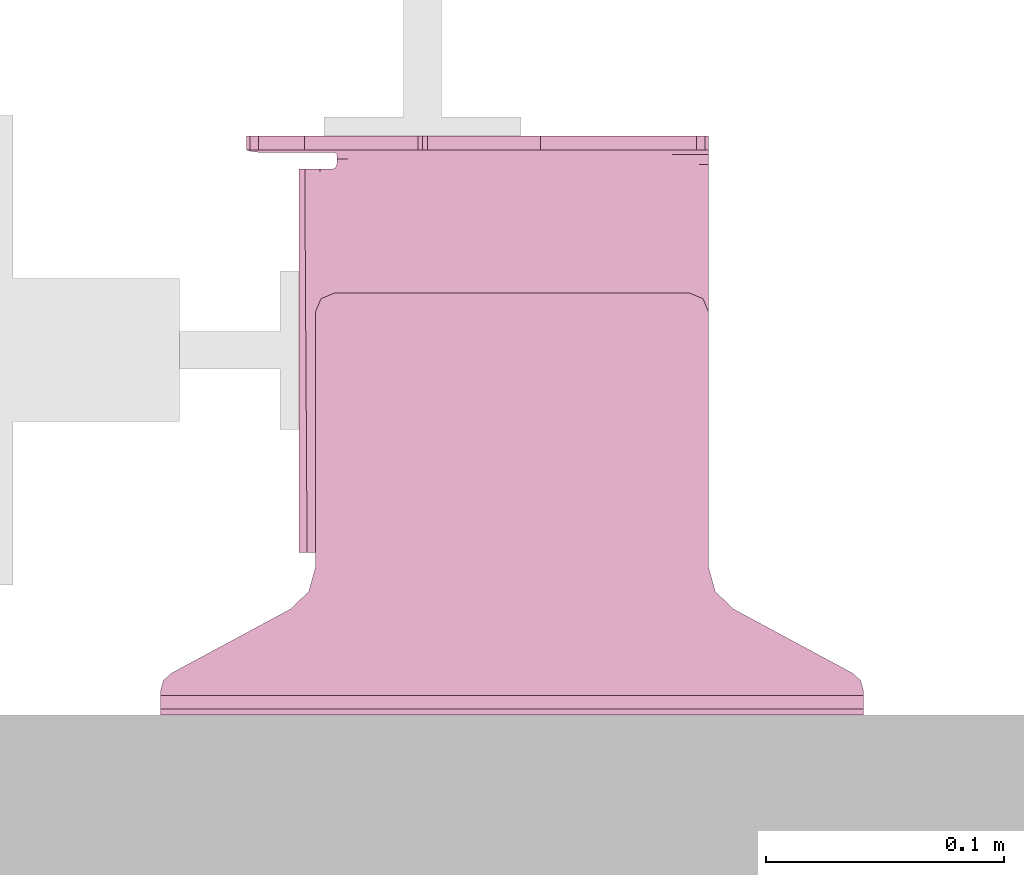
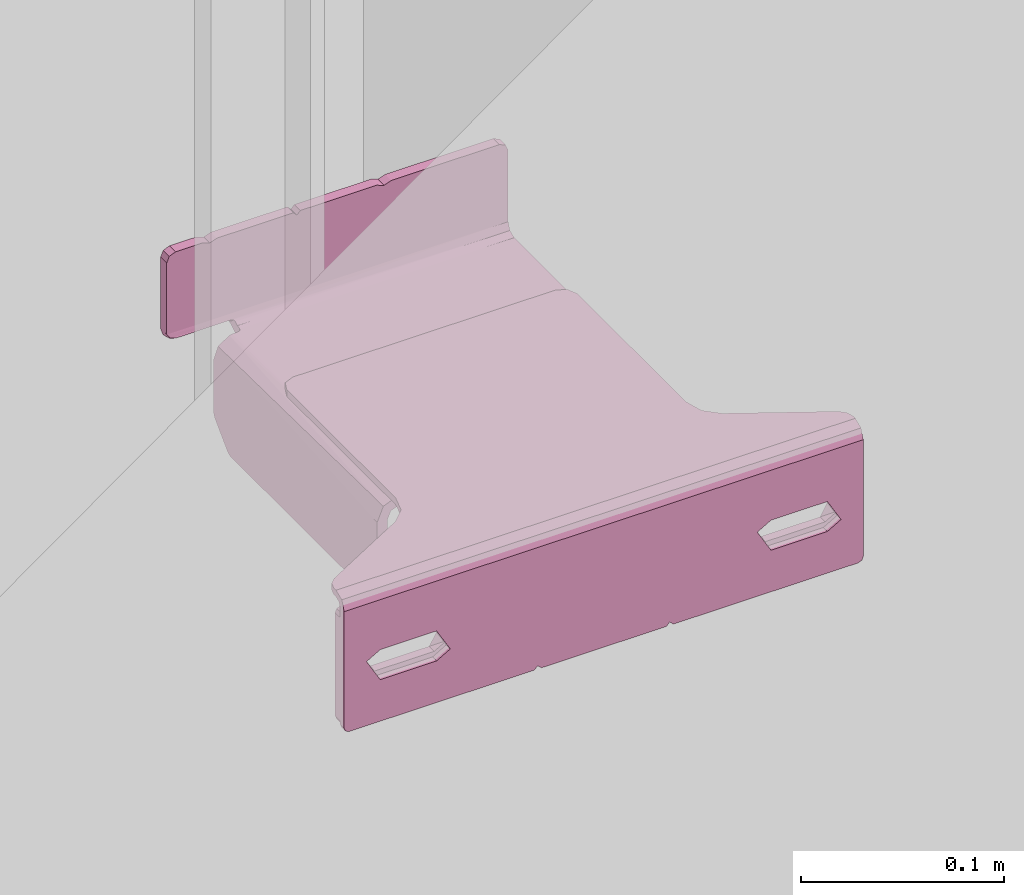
# One storey, part 11 of 14: 1 transport element.
"""IFC2X3 building model written with IfcOpenShell, lengths in millimetres."""

from ifc_helpers import new_model, entity, si_unit, converted_unit, derived_unit, direction, frame, origin, place, context, subcontext, project, spatial, faceted_brep, source, transform, mapped, material, type_object, type_shapes, element, save


model = new_model("IFC2X3")

# Units and contexts
model_context = context("Model", 3, precision=0.01, world=origin(), true_north=direction((6.12303176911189e-17, 1.0)))
body_context = subcontext(model_context, "Body", "Model", "MODEL_VIEW")
ifc_project = project(units=[si_unit("LENGTHUNIT", "METRE", prefix="MILLI"), si_unit("AREAUNIT", "SQUARE_METRE"), si_unit("VOLUMEUNIT", "CUBIC_METRE"), converted_unit("PLANEANGLEUNIT", "DEGREE", entity("IfcRatioMeasure", 0.0174532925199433), si_unit("PLANEANGLEUNIT", "RADIAN"), dimensions=[0, 0, 0, 0, 0, 0, 0]), si_unit("MASSUNIT", "GRAM", prefix="KILO"), derived_unit("MASSDENSITYUNIT", [(si_unit("MASSUNIT", "GRAM", prefix="KILO"), 1), (si_unit("LENGTHUNIT", "METRE"), -3)]), si_unit("TIMEUNIT", "SECOND"), si_unit("FREQUENCYUNIT", "HERTZ"), si_unit("THERMODYNAMICTEMPERATUREUNIT", "DEGREE_CELSIUS"), derived_unit("THERMALTRANSMITTANCEUNIT", [(si_unit("MASSUNIT", "GRAM", prefix="KILO"), 1), (si_unit("THERMODYNAMICTEMPERATUREUNIT", "KELVIN"), -1), (si_unit("TIMEUNIT", "SECOND"), -3)]), derived_unit("VOLUMETRICFLOWRATEUNIT", [(si_unit("LENGTHUNIT", "METRE"), 3), (si_unit("TIMEUNIT", "SECOND"), -1)]), si_unit("ELECTRICCURRENTUNIT", "AMPERE"), si_unit("ELECTRICVOLTAGEUNIT", "VOLT"), si_unit("POWERUNIT", "WATT"), si_unit("FORCEUNIT", "NEWTON", prefix="KILO"), si_unit("ILLUMINANCEUNIT", "LUX"), si_unit("LUMINOUSFLUXUNIT", "LUMEN"), si_unit("LUMINOUSINTENSITYUNIT", "CANDELA"), derived_unit("USERDEFINED", [(si_unit("MASSUNIT", "GRAM", prefix="KILO"), -1), (si_unit("LENGTHUNIT", "METRE"), -2), (si_unit("TIMEUNIT", "SECOND"), 3), (si_unit("LUMINOUSFLUXUNIT", "LUMEN"), 1)]), derived_unit("LINEARVELOCITYUNIT", [(si_unit("LENGTHUNIT", "METRE"), 1), (si_unit("TIMEUNIT", "SECOND"), -1)]), si_unit("PRESSUREUNIT", "PASCAL"), derived_unit("USERDEFINED", [(si_unit("LENGTHUNIT", "METRE"), -2), (si_unit("MASSUNIT", "GRAM", prefix="KILO"), 1), (si_unit("TIMEUNIT", "SECOND"), -2)])], contexts=[model_context])

# Site, building, storey, space
site_placement = place(None, frame((-151.875543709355, 2715.0, 0.0)))
site = spatial("IfcSite", under=ifc_project, at=site_placement, Name="Surface", CompositionType="ELEMENT")
building_placement = place(site_placement, origin())
building = spatial("IfcBuilding", under=site, at=building_placement, CompositionType="ELEMENT")
storey_placement = place(building_placement, frame((0.0, 0.0, 3875.0)))
storey = spatial("IfcBuildingStorey", under=building, at=storey_placement, Name="uus 2 korrus", CompositionType="ELEMENT", Elevation=3875.00000000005)
space_placement = place(storey_placement, origin())
space = spatial("IfcSpace", under=storey, at=space_placement, Name="226a", CompositionType="ELEMENT", InteriorOrExteriorSpace="INTERNAL")

# Transport element
ifc_material = material(Name="Generic")
transport_element_type = type_object("IfcTransportElementType", Name="KONE_Combination_Bracket_KM51029396V002_L184-394_LH", material=ifc_material)
shared_shape = source(origin(), body_context, "Body", "Brep", [
    faceted_brep([(194.368600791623, 50.557014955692, -243.0), (197.904134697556, 49.0925488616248, -243.0), (199.368600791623, 45.5570149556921, -243.0), (199.368600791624, 2.55701495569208, -243.0), (5.401799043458, 2.55701495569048, -243.0), (5.37690725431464, 2.84414737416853, -243.0), (5.36860079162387, 3.13223699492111, -243.0), (5.36860079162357, 45.5570149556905, -243.0), (6.83306688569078, 49.0925488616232, -243.0), (10.3686007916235, 50.5570149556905, -243.0), (25.7152888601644, 50.5570149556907, -243.0), (29.8686007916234, 49.0570149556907, -243.0), (34.0219127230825, 50.5570149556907, -243.0), (77.3686007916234, 50.5570149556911, -243.0), (79.3686007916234, 48.5570149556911, -243.0), (81.3686007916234, 50.5570149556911, -243.0), (124.715288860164, 50.5570149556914, -243.0), (128.868600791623, 49.0570149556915, -243.0), (133.021912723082, 50.5570149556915, -243.0), (5.40179904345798, 2.55701495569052, -240.954929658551), (5.40179904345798, 2.55701495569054, -238.909859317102), (5.40179904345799, 2.55701495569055, -237.0), (5.37690725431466, 2.84414737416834, -237.0), (5.36860079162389, 3.13223699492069, -237.0), (39.3686007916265, -9.44298504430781, -68.0), (39.3686007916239, -9.44298504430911, -229.0), (41.3686007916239, -9.4429850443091, -229.0), (42.7828143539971, -9.44298504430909, -229.585786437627), (43.3686007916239, -9.4429850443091, -231.0), (199.368600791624, -9.44298504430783, -231.0), (199.368600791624, -9.44298504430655, -73.0), (197.904134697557, -9.44298504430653, -69.4644660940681), (194.368600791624, -9.44298504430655, -68.0), (33.3686007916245, -61.9785189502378, -81.535533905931), (33.3686007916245, -63.0623827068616, -83.1576506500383), (33.3686007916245, -63.442985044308, -85.0710678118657), (33.3686007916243, -63.442985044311, -211.928932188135), (33.3686007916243, -63.0623827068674, -213.84234934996), (33.3686007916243, -61.9785189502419, -215.464466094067), (33.3686007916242, -49.9074511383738, -227.535533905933), (33.3686007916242, -48.2853343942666, -228.619397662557), (33.3686007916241, -46.3719172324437, -229.0), (33.3686007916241, -37.0182070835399, -229.0), (33.3686007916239, -15.4429850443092, -229.0), (33.3686007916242, -15.4429850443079, -68.0), (33.3686007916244, -46.3719172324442, -68.0), (33.3686007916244, -48.2853343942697, -68.3806023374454), (33.3686007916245, -49.9074511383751, -69.4644660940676), (41.3686007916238, -3.8111214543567, -241.170881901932), (199.368600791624, -5.92826641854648, -239.485281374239), (6.40766390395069, -1.13745775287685, -242.417130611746), (10.3686007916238, -3.81112145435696, -241.170881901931), (8.29850844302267, -2.41379275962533, -241.822205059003), (43.3686007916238, -8.59019143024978, -235.442948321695), (43.3686007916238, -6.15302007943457, -239.254410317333), (43.1522088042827, -5.4728628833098, -239.865440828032), (42.912766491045, -4.72025455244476, -240.541559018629), (42.1406836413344, -4.26568800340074, -240.85622046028), (34.6248743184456, -11.7691506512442, -229.0), (35.1259601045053, -11.2003443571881, -68.0), (37.867620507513, -9.63376322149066, -229.0), (38.612072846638, -9.49087067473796, -229.0), (5.36860079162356, 45.5570149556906, -237.0), (6.8330668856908, 49.0925488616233, -237.0), (10.3686007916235, 50.5570149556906, -237.0), (199.368600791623, 45.5570149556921, -237.0), (199.368600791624, 2.55701495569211, -237.0), (199.368600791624, -1.68562573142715, -235.24264068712), (199.368600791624, -3.44298504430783, -231.0), (199.368600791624, -3.44298504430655, -73.0), (194.368600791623, 50.5570149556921, -237.0), (197.904134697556, 49.0925488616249, -237.0), (124.715288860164, 50.5570149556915, -237.0), (81.3686007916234, 50.5570149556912, -237.0), (133.021912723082, 50.5570149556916, -237.0), (77.3686007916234, 50.5570149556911, -237.0), (34.0219127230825, 50.5570149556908, -237.0), (25.7152888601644, 50.5570149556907, -237.0), (128.868600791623, 49.0570149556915, -237.0), (79.3686007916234, 48.5570149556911, -237.0), (29.8686007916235, 49.0570149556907, -237.0), (39.3686007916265, -6.44298504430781, -68.0), (194.368600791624, -3.44298504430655, -68.0), (39.3686007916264, -3.44298504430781, -68.0), (30.883319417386, -6.9577036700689, -68.0), (27.3686007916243, -15.4429850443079, -68.0), (27.3686007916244, -46.3719172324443, -68.0), (197.904134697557, -3.44298504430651, -69.4644660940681), (27.3686007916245, -46.3719172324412, -229.0), (27.3686007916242, -48.2853343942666, -228.619397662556), (27.3686007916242, -49.9074511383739, -227.535533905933), (27.3686007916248, -61.9785189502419, -215.464466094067), (27.3686007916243, -63.4429850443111, -211.928932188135), (27.3686007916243, -63.0623827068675, -213.84234934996), (27.368600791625, -63.442985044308, -85.0710678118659), (27.3686007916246, -63.0623827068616, -83.1576506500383), (27.3686007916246, -61.9785189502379, -81.5355339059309), (27.3686007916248, -49.9074511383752, -69.4644660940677), (27.3686007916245, -48.2853343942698, -68.3806023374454), (42.782814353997, -3.44298504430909, -229.585786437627), (41.3686007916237, -3.44298504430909, -229.0), (39.3686007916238, -3.44298504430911, -229.0), (43.3686007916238, -3.44298504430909, -231.0), (27.3686007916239, -15.4429850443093, -229.0), (27.3686007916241, -37.01820708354, -229.0), (41.3686007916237, -0.62705324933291, -236.085440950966), (6.19050436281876, 1.51354044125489, -236.776221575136), (7.26141212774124, 0.0967058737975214, -236.472374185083), (10.3686007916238, -0.627053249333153, -236.085440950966), (43.3686007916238, -3.01658823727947, -233.221474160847), (43.3686007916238, -1.79800256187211, -235.127205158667), (42.6856009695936, -0.938930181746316, -235.876306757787), (29.8811478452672, -8.09531625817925, -229.0), (36.366640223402, -3.82454139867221, -229.0), (37.855544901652, -3.53875630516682, -229.0), (30.3686007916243, -37.01820708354, -229.0), (30.368600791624, -15.4429850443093, -229.0), (37.1171303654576, -6.72915231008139, -229.0), (10.3686007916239, -2.7497653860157, -239.475734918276), (41.3686007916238, -3.03001105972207, -239.923329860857), (41.3686007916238, -1.68840931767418, -237.780587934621), (10.3686007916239, -1.68840931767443, -237.780587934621), (43.3686007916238, -2.86998689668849, -236.143113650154), (43.3686007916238, -4.70134757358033, -237.878675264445), (42.9506306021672, -3.05278886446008, -238.263482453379), (42.3310011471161, -2.020127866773, -237.825190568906), (42.96220815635, -2.04723230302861, -236.93741785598), (42.2377280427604, -2.95461684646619, -239.328855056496), (8.43695178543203, -1.96418230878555, -239.076862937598), (6.5068444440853, 0.111398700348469, -238.170030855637), (6.58437608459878, -0.560185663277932, -239.802254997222), (8.3377752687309, -1.05787869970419, -237.540730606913)], [[[0, 1, 2, 3, 4, 5, 6, 7, 8, 9, 10, 11, 12, 13, 14, 15, 16, 17, 18]], [[19, 20, 21, 22, 5, 4]], [[22, 23, 6, 5]], [[24, 25, 26, 27, 28, 29, 30, 31, 32]], [[33, 34, 35, 36, 37, 38, 39, 40, 41, 42, 43, 44, 45, 46, 47]], [[3, 48, 4]], [[48, 3, 49]], [[48, 50, 4]], [[48, 51, 52, 50]], [[49, 29, 53]], [[53, 29, 28]], [[49, 53, 54]], [[49, 54, 55, 56]], [[49, 56, 57, 48]], [[58, 59, 44]], [[44, 43, 58]], [[58, 60, 59]], [[61, 24, 60]], [[59, 60, 24]], [[24, 61, 25]], [[7, 62, 63, 8]], [[63, 64, 9, 8]], [[6, 23, 62, 7]], [[65, 66, 67, 68, 69, 30, 29, 49, 3, 2]], [[0, 70, 71, 1]], [[71, 65, 2, 1]], [[72, 16, 15, 73]], [[0, 18, 74, 70]], [[75, 13, 12, 76]], [[10, 9, 64, 77]], [[17, 78, 74, 18]], [[16, 72, 78, 17]], [[15, 14, 79, 73]], [[75, 79, 14, 13]], [[11, 80, 76, 12]], [[10, 77, 80, 11]], [[81, 32, 82]], [[32, 81, 24]], [[81, 82, 83]], [[59, 24, 81]], [[83, 84, 81]], [[81, 84, 59]], [[84, 85, 59]], [[59, 85, 44]], [[85, 45, 44]], [[45, 85, 86]], [[30, 69, 87, 31]], [[87, 82, 32, 31]], [[88, 41, 40, 89]], [[40, 39, 90, 89]], [[39, 38, 91, 90]], [[36, 92, 93, 37]], [[93, 91, 38, 37]], [[94, 92, 36, 35]], [[94, 35, 34, 95]], [[34, 33, 96, 95]], [[97, 96, 33, 47]], [[45, 86, 98, 46]], [[98, 97, 47, 46]], [[66, 65, 71, 70, 74, 78, 72, 73, 79, 75, 76, 80, 77, 64, 63, 62, 23, 22, 21]], [[99, 100, 101, 83, 82, 87, 69, 68, 102]], [[94, 95, 96, 97, 98, 86, 85, 103, 104, 88, 89, 90, 91, 93, 92]], [[21, 105, 66]], [[67, 66, 105]], [[105, 21, 106, 107]], [[108, 105, 107]], [[109, 68, 67]], [[102, 68, 109]], [[110, 109, 67]], [[67, 111, 110]], [[105, 111, 67]], [[85, 84, 112]], [[112, 103, 85]], [[84, 113, 112]], [[113, 83, 114]], [[83, 113, 84]], [[101, 114, 83]], [[115, 88, 104]], [[88, 115, 41]], [[42, 41, 115]], [[115, 104, 103]], [[116, 115, 103]], [[116, 43, 115]], [[42, 115, 43]], [[43, 116, 58]], [[112, 116, 103]], [[112, 58, 116]], [[58, 112, 117]], [[117, 112, 113]], [[114, 117, 113]], [[101, 117, 114]], [[25, 117, 101]], [[25, 101, 100]], [[100, 26, 25]], [[61, 117, 25]], [[60, 117, 61]], [[117, 60, 58]], [[118, 51, 48, 119, 120, 105, 108, 121]], [[54, 53, 28, 102, 109, 110, 122, 123]], [[56, 55, 124]], [[120, 125, 105]], [[126, 122, 110]], [[124, 123, 122]], [[55, 123, 124]], [[125, 124, 126]], [[127, 57, 56]], [[124, 125, 127]], [[127, 119, 57]], [[105, 125, 111]], [[119, 127, 120]], [[127, 125, 120]], [[124, 127, 56]], [[119, 48, 57]], [[111, 125, 126]], [[111, 126, 110]], [[126, 124, 122]], [[55, 54, 123]], [[99, 27, 26, 100]], [[102, 28, 27, 99]], [[128, 118, 121]], [[20, 129, 106]], [[52, 118, 128]], [[52, 130, 50]], [[128, 121, 131]], [[131, 130, 128]], [[19, 130, 20]], [[129, 131, 107]], [[50, 19, 4]], [[50, 130, 19]], [[20, 106, 21]], [[107, 131, 108]], [[52, 128, 130]], [[129, 107, 106]], [[129, 20, 130]], [[52, 51, 118]], [[131, 129, 130]], [[108, 131, 121]]]),
    faceted_brep([(199.368600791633, 0.557014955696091, -169.0), (197.025455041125, 0.557014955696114, -174.656854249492), (191.368600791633, 0.557014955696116, -177.0), (42.3686007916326, 0.557014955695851, -177.0), (36.7117465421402, 0.55701495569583, -174.656854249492), (34.3686007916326, 0.557014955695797, -169.0), (34.3686007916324, 0.557014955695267, -61.945881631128), (32.9537618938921, 0.557014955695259, -56.81801571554), (31.5389229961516, 0.557014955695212, -51.690149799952), (27.3345887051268, 0.557014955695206, -47.6688098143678), (23.8505972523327, 0.557014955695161, -44.3364596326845), (-26.4241977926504, 0.557014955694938, -17.2654161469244), (-29.4995280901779, 0.557014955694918, -14.3239400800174), (-30.6313992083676, 0.557014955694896, -10.2216473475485), (-30.6313992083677, 0.557014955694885, -8.0), (264.368600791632, 0.557014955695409, -8.0), (264.368600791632, 0.55701495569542, -10.221647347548), (263.23672967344, 0.557014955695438, -14.3239400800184), (260.161399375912, 0.557014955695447, -17.2654161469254), (209.886604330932, 0.557014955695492, -44.3364596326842), (206.042441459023, 0.55701495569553, -48.0133047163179), (202.198278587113, 0.557014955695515, -51.6901497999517), (200.6508790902, 0.557014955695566, -57.2984612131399), (199.368600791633, 0.55701495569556, -61.9458816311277), (-30.6313992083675, -77.4429850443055, 0.0), (-29.7527195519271, -79.5643053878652, 0.0), (-27.6313992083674, -80.4429850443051, 0.0), (-10.1313992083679, -55.4429850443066, 0.0), (-17.9256278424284, -41.9429850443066, 0.0), (-30.6313992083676, -7.44298504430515, 0.0), (21.8686007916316, -55.4429850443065, 0.0), (77.3686007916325, -80.442985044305, 0.0), (29.6628294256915, -50.9429850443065, 0.0), (79.3686007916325, -78.4429850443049, 0.0), (21.8686007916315, -37.4429850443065, 0.0), (204.074372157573, -41.9429850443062, 0.0), (154.368600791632, -78.4429850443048, 0.0), (81.3686007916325, -80.4429850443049, 0.0), (152.368600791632, -80.4429850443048, 0.0), (156.368600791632, -80.4429850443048, 0.0), (211.868600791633, -55.4429850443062, 0.0), (261.368600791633, -80.442985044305, 0.0), (243.868600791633, -55.4429850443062, 0.0), (264.368600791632, -77.4429850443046, 0.0), (263.489921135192, -79.5643053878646, 0.0), (251.662829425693, -50.9429850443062, 0.0), (264.368600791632, -7.44298504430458, 0.0), (243.868600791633, -37.4429850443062, 0.0), (211.868600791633, -37.4429850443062, 0.0), (-10.1313992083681, -37.4429850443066, 0.0), (-30.6313992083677, -1.78613079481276, -2.34314575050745), (264.368600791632, -1.78613079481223, -2.34314575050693), (264.368600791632, -4.61455791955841, -5.17157287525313), (-30.6313992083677, -4.61455791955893, -5.17157287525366), (-30.6313992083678, -3.44298504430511, -8.0), (264.368600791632, -3.44298504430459, -8.0), (264.368600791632, -7.44298504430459, -4.0), (-30.6313992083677, -7.44298504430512, -4.0), (264.368600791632, -3.44298504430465, -10.221647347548), (264.368600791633, -77.4429850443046, -4.0), (-30.6313992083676, -3.44298504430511, -10.2216473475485), (-30.6313992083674, -77.4429850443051, -4.0), (23.8505972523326, -3.44298504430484, -44.3364596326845), (-26.4241977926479, -3.44298504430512, -17.2654161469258), (34.3686007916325, -3.44298504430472, -61.945881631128), (32.9537618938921, -3.44298504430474, -56.81801571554), (31.5389229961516, -3.44298504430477, -51.690149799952), (27.6947601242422, -3.4429850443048, -48.0133047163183), (34.3686007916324, -3.44298504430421, -169.0), (42.3686007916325, -3.44298504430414, -177.0), (36.7117465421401, -3.44298504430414, -174.656854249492), (191.368600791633, -3.44298504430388, -177.0), (199.368600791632, -3.44298504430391, -169.0), (197.025455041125, -3.44298504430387, -174.656854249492), (199.368600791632, -3.44298504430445, -61.9458816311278), (209.886604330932, -3.44298504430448, -44.3364596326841), (206.042441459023, -3.44298504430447, -48.0133047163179), (202.198278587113, -3.44298504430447, -51.6901497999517), (200.783439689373, -3.44298504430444, -56.8180157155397), (260.161399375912, -3.44298504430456, -17.2654161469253), (263.23672967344, -3.44298504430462, -14.3239400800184), (-29.499528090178, -3.44298504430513, -14.3239400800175), (-10.1313992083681, -37.4429850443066, -4.0), (21.8686007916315, -37.4429850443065, -4.0), (211.868600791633, -37.4429850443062, -4.0), (243.868600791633, -37.4429850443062, -4.0), (-17.9256278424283, -41.9429850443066, -4.0), (-10.1313992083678, -55.4429850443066, -4.0), (21.8686007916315, -55.4429850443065, -4.0), (243.868600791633, -55.4429850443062, -4.0), (211.868600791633, -55.4429850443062, -4.0), (29.6628294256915, -50.9429850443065, -4.0), (251.662829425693, -50.9429850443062, -4.0), (204.074372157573, -41.9429850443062, -4.0), (-27.6313992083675, -80.4429850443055, -4.0), (-29.7527195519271, -79.5643053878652, -4.0), (77.3686007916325, -80.4429850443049, -4.0), (261.368600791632, -80.4429850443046, -4.0), (263.489921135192, -79.5643053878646, -4.0), (156.368600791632, -80.4429850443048, -4.0), (154.368600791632, -78.4429850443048, -4.0), (79.3686007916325, -78.442985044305, -4.0), (81.3686007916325, -80.4429850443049, -4.0), (152.368600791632, -80.4429850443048, -4.0)], [[[0, 1, 2, 3, 4, 5, 6, 7, 8, 9, 10, 11, 12, 13, 14, 15, 16, 17, 18, 19, 20, 21, 22, 23]], [[24, 25, 26]], [[27, 24, 26]], [[27, 28, 24]], [[28, 29, 24]], [[27, 26, 30]], [[26, 31, 30]], [[32, 30, 31]], [[33, 32, 31]], [[32, 33, 34]], [[33, 35, 34]], [[36, 35, 33]], [[33, 37, 36]], [[38, 36, 37]], [[35, 36, 39]], [[40, 35, 39]], [[40, 39, 41]], [[40, 41, 42]], [[42, 41, 43]], [[41, 44, 43]], [[45, 42, 43]], [[45, 43, 46]], [[29, 34, 46]], [[46, 47, 45]], [[47, 46, 48]], [[48, 46, 34]], [[49, 34, 29]], [[35, 48, 34]], [[49, 29, 28]], [[15, 14, 50, 51]], [[50, 29, 46, 51]], [[52, 53, 54, 55]], [[56, 57, 53, 52]], [[52, 55, 58, 16, 15, 51, 46, 43, 59, 56]], [[14, 13, 60, 54, 53, 57, 61, 24, 29, 50]], [[10, 62, 63, 11]], [[64, 65, 66, 8, 7, 6]], [[66, 67, 62, 10, 9, 8]], [[5, 68, 64, 6]], [[3, 69, 70, 4]], [[70, 68, 5, 4]], [[2, 71, 69, 3]], [[0, 72, 73, 1]], [[73, 71, 2, 1]], [[74, 72, 0, 23]], [[75, 76, 77, 21, 20, 19]], [[77, 78, 74, 23, 22, 21]], [[18, 79, 75, 19]], [[16, 58, 80, 17]], [[80, 79, 18, 17]], [[11, 63, 81, 12]], [[81, 60, 13, 12]], [[74, 78, 77, 76, 75, 79, 80, 58, 55, 54, 60, 81, 63, 62, 67, 66, 65, 64, 68, 70, 69, 71, 73, 72]], [[49, 82, 83, 34]], [[48, 84, 85, 47]], [[28, 86, 82, 49]], [[27, 87, 86, 28]], [[30, 88, 87, 27]], [[42, 89, 90, 40]], [[32, 91, 88, 30]], [[34, 83, 91, 32]], [[45, 92, 89, 42]], [[47, 85, 92, 45]], [[35, 93, 84, 48]], [[40, 90, 93, 35]], [[94, 95, 61]], [[94, 61, 87]], [[88, 94, 87]], [[88, 96, 94]], [[61, 86, 87]], [[61, 57, 86]], [[86, 57, 82]], [[57, 83, 82]], [[56, 83, 57]], [[83, 56, 84]], [[84, 56, 85]], [[92, 85, 56]], [[56, 59, 92]], [[59, 89, 92]], [[59, 97, 89]], [[59, 98, 97]], [[89, 97, 90]], [[97, 99, 90]], [[99, 93, 90]], [[99, 100, 93]], [[101, 93, 100]], [[100, 102, 101]], [[102, 100, 103]], [[96, 91, 101]], [[83, 101, 91]], [[83, 93, 101]], [[96, 88, 91]], [[83, 84, 93]], [[39, 99, 97, 41]], [[94, 96, 31, 26]], [[102, 103, 38, 37]], [[36, 38, 103, 100]], [[101, 102, 37, 33]], [[33, 31, 96, 101]], [[100, 99, 39, 36]], [[41, 97, 98, 44]], [[98, 59, 43, 44]], [[24, 61, 95, 25]], [[95, 94, 26, 25]]]),
    faceted_brep([(-27.6313992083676, -78.4429850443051, -9.0), (-29.7527195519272, -77.5643053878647, -9.0), (-30.6313992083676, -75.4429850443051, -9.0), (-11.1313992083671, -52.4429850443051, -9.0), (22.8686007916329, -52.442985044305, -9.0), (74.3686007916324, -78.4429850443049, -9.0), (-18.0596024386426, -48.4429850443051, -9.0), (-30.6313992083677, -13.4429850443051, -9.0), (-11.1313992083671, -36.4429850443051, -9.0), (-27.6313992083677, -10.4429850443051, -9.0), (-29.7527195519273, -11.3216647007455, -9.0), (22.8686007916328, -36.442985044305, -9.0), (261.368600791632, -10.4429850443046, -9.0), (210.868600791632, -36.4429850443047, -9.0), (244.868600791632, -36.4429850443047, -9.0), (264.368600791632, -13.4429850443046, -9.0), (263.489921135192, -11.3216647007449, -9.0), (251.796804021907, -40.4429850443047, -9.0), (264.368600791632, -75.4429850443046, -9.0), (244.868600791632, -52.4429850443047, -9.0), (261.368600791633, -78.4429850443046, -9.0), (263.489921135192, -77.5643053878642, -9.0), (210.868600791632, -52.4429850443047, -9.0), (159.368600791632, -78.4429850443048, -9.0), (203.940397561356, -48.4429850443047, -9.0), (154.368600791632, -68.4429850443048, -9.0), (29.7968040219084, -40.442985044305, -9.0), (79.3686007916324, -68.4429850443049, -9.0), (149.368600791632, -78.4429850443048, -9.0), (84.3686007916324, -78.4429850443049, -9.0), (-30.6313992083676, -75.4429850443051, -4.0), (-29.7527195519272, -77.5643053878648, -4.0), (-27.6313992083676, -78.4429850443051, -4.0), (-11.1313992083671, -52.4429850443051, -4.0), (-18.0596024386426, -40.4429850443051, -4.0), (-30.6313992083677, -13.4429850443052, -4.0), (22.8686007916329, -52.4429850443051, -4.0), (74.3686007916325, -78.442985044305, -4.0), (29.7968040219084, -48.442985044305, -4.0), (79.3686007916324, -68.4429850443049, -4.0), (22.8686007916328, -36.4429850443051, -4.0), (203.940397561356, -40.4429850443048, -4.0), (154.368600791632, -68.4429850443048, -4.0), (149.368600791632, -78.4429850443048, -4.0), (84.3686007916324, -78.442985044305, -4.0), (159.368600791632, -78.4429850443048, -4.0), (210.868600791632, -52.4429850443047, -4.0), (261.368600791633, -78.4429850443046, -4.0), (244.868600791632, -52.4429850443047, -4.0), (264.368600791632, -75.4429850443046, -4.0), (263.489921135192, -77.5643053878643, -4.0), (251.796804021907, -48.4429850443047, -4.0), (264.368600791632, -13.4429850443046, -4.0), (244.868600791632, -36.4429850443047, -4.0), (261.368600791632, -10.4429850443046, -4.0), (263.489921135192, -11.321664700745, -4.0), (-27.6313992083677, -10.4429850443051, -4.0), (210.868600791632, -36.4429850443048, -4.0), (-11.1313992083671, -36.4429850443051, -4.0), (-29.7527195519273, -11.3216647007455, -4.0)], [[[0, 1, 2]], [[3, 0, 2]], [[3, 4, 0]], [[4, 5, 0]], [[6, 3, 2]], [[2, 7, 6]], [[8, 6, 7]], [[8, 7, 9]], [[7, 10, 9]], [[9, 11, 8]], [[12, 11, 9]], [[11, 12, 13]], [[12, 14, 13]], [[14, 12, 15]], [[15, 12, 16]], [[17, 14, 15]], [[18, 17, 15]], [[17, 18, 19]], [[20, 19, 18]], [[18, 21, 20]], [[20, 22, 19]], [[22, 20, 23]], [[23, 24, 22]], [[23, 25, 24]], [[25, 13, 24]], [[26, 13, 25]], [[25, 27, 26]], [[27, 25, 28]], [[27, 28, 29]], [[27, 5, 26]], [[5, 4, 26]], [[13, 26, 11]], [[30, 31, 32]], [[30, 32, 33]], [[30, 33, 34]], [[34, 35, 30]], [[32, 36, 33]], [[32, 37, 36]], [[38, 36, 37]], [[38, 37, 39]], [[38, 39, 40]], [[39, 41, 40]], [[41, 39, 42]], [[43, 42, 39]], [[44, 43, 39]], [[41, 42, 45]], [[46, 41, 45]], [[45, 47, 46]], [[48, 46, 47]], [[49, 48, 47]], [[47, 50, 49]], [[48, 49, 51]], [[52, 51, 49]], [[52, 53, 51]], [[52, 54, 53]], [[55, 54, 52]], [[56, 40, 54]], [[57, 53, 54]], [[57, 54, 40]], [[58, 40, 56]], [[57, 40, 41]], [[56, 35, 58]], [[56, 59, 35]], [[35, 34, 58]], [[54, 12, 9, 56]], [[7, 2, 30, 35]], [[32, 0, 5, 37]], [[44, 29, 28, 43]], [[45, 23, 20, 47]], [[52, 49, 18, 15]], [[7, 35, 59, 10]], [[59, 56, 9, 10]], [[0, 32, 31, 1]], [[31, 30, 2, 1]], [[18, 49, 50, 21]], [[50, 47, 20, 21]], [[12, 54, 55, 16]], [[55, 52, 15, 16]], [[58, 34, 8]], [[6, 8, 34]], [[33, 3, 6]], [[34, 33, 6]], [[4, 3, 33, 36]], [[48, 19, 22, 46]], [[36, 38, 4]], [[26, 4, 38]], [[40, 11, 26]], [[38, 40, 26]], [[8, 11, 40, 58]], [[13, 14, 53, 57]], [[57, 41, 13]], [[24, 13, 41]], [[46, 22, 24]], [[41, 46, 24]], [[48, 51, 19]], [[17, 19, 51]], [[53, 14, 17]], [[51, 53, 17]], [[39, 37, 5, 27]], [[27, 29, 44, 39]], [[43, 28, 25, 42]], [[23, 45, 42, 25]]]),
])
type_shapes(transport_element_type, [shared_shape])
transport_element_placement = place(space_placement, frame((30677.2491663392, 19660.0, 1886.44320744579), z_axis=(0.0, -1.0, 0.0), x_axis=(1.0, 0.0, 0.0)))
element("IfcTransportElement", 1, at=transport_element_placement, inside=space, type_object=transport_element_type, material=ifc_material, Name="KONE_Combination_Bracket_KM51029396V002_L184-394_LH:KONE_Combination_Bracket_KM51029396V002_L184-394_LH", ObjectType="KONE_Combination_Bracket_KM51029396V002_L184-394_LH", CapacityByNumber=0.0, CapacityByWeight=0.0, OperationType="ELEVATOR", context=body_context, shape_type="MappedRepresentation", body=[
    mapped(shared_shape, transform((0.0, 0.0, 0.0), scale=1.0)),
])

save(model, "model.ifc")
